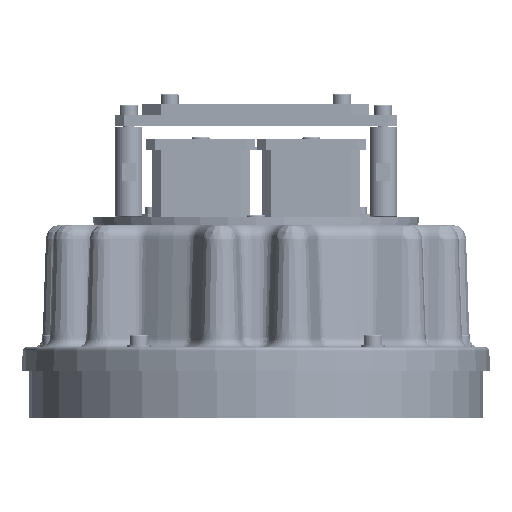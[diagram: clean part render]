
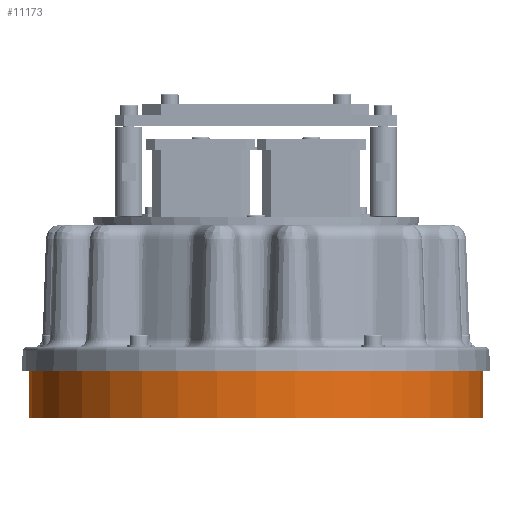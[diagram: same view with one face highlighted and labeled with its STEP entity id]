
A CAD part, left-side view. The second image highlights one B-rep face of the part: STEP entity #11173.
In plain terms, the highlighted cylindrical face has radius 125 mm (diameter 250 mm), a partial arc.
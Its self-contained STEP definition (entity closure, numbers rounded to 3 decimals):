
#11173=ADVANCED_FACE('',(#22007),#22008,.T.);
#22007=FACE_OUTER_BOUND('',#34948,.T.);
#22008=CYLINDRICAL_SURFACE('',#34949,125.0);
#34948=EDGE_LOOP('',(#56483,#56484,#56485,#56486));
#34949=AXIS2_PLACEMENT_3D('',#56487,#56488,#56489);
#56483=ORIENTED_EDGE('',*,*,#67099,.T.);
#56484=ORIENTED_EDGE('',*,*,#67093,.F.);
#56485=ORIENTED_EDGE('',*,*,#67100,.F.);
#56486=ORIENTED_EDGE('',*,*,#67101,.T.);
#56487=CARTESIAN_POINT('',(-698.769,-468.911,76.629));
#56488=DIRECTION('',(0.0,0.0,-1.0));
#56489=DIRECTION('',(-1.0,0.0,0.0));
#67093=EDGE_CURVE('',#79140,#79135,#79142,.T.);
#67099=EDGE_CURVE('',#79150,#79135,#79151,.T.);
#67100=EDGE_CURVE('',#79152,#79140,#79153,.T.);
#67101=EDGE_CURVE('',#79152,#79150,#79154,.T.);
#79135=VERTEX_POINT('',#95490);
#79140=VERTEX_POINT('',#95497);
#79142=LINE('',#95500,#95501);
#79150=VERTEX_POINT('',#95510);
#79151=CIRCLE('',#95511,125.0);
#79152=VERTEX_POINT('',#95512);
#79153=CIRCLE('',#95513,125.0);
#79154=LINE('',#95514,#95515);
#95490=CARTESIAN_POINT('',(-698.769,-593.911,43.629));
#95497=CARTESIAN_POINT('',(-698.769,-593.911,76.629));
#95500=CARTESIAN_POINT('',(-698.769,-593.911,76.629));
#95501=VECTOR('',#106992,1.0);
#95510=CARTESIAN_POINT('',(-698.769,-343.911,43.629));
#95511=AXIS2_PLACEMENT_3D('',#107000,#107001,#107002);
#95512=CARTESIAN_POINT('',(-698.769,-343.911,76.629));
#95513=AXIS2_PLACEMENT_3D('',#107003,#107004,#107005);
#95514=CARTESIAN_POINT('',(-698.769,-343.911,76.629));
#95515=VECTOR('',#107006,1.0);
#106992=DIRECTION('',(0.0,0.0,-1.0));
#107000=CARTESIAN_POINT('',(-698.769,-468.911,43.629));
#107001=DIRECTION('',(0.0,0.0,1.0));
#107002=DIRECTION('',(1.0,0.0,0.0));
#107003=CARTESIAN_POINT('',(-698.769,-468.911,76.629));
#107004=DIRECTION('',(0.0,0.0,1.0));
#107005=DIRECTION('',(1.0,0.0,0.0));
#107006=DIRECTION('',(0.0,0.0,-1.0));
